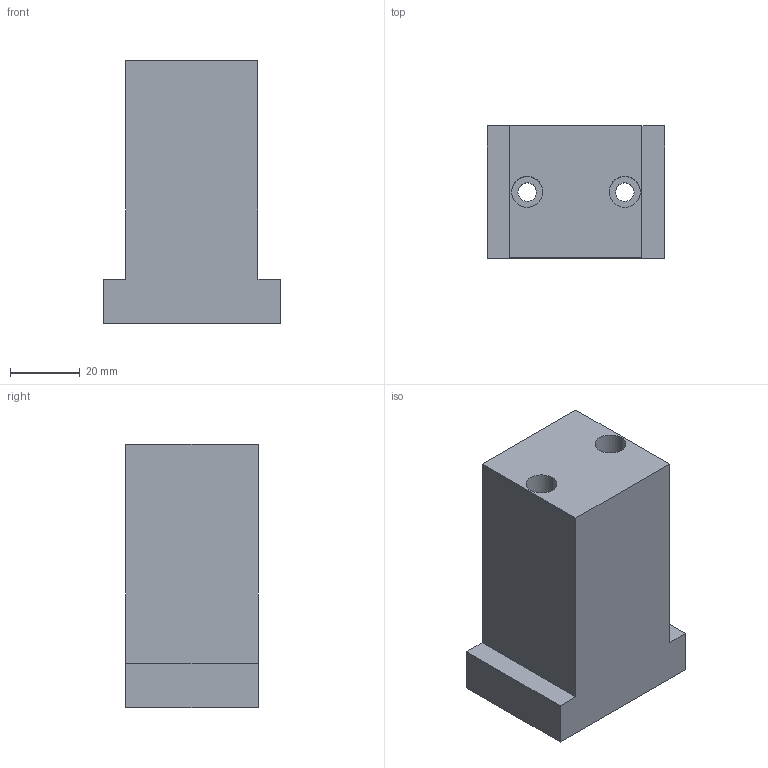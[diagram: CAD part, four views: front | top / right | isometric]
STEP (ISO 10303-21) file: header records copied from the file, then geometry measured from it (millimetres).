
FILE_DESCRIPTION (( 'STEP AP203' ), '1' );
FILE_NAME ('269-18-108.STEP', '2020-03-02T21:44:56', ( '' ), ( '' ), 'SwSTEP 2.0', 'SolidWorks 2017', '' );
FILE_SCHEMA (( 'CONFIG_CONTROL_DESIGN' ));
Length unit declared in the file: inch
Products named in the file (1): 269-18-108
Bounding box: 50.8 x 37.97 x 75.44 mm (x, y, z)
Volume: 103370.5 mm3; surface area: 20203.1 mm2
Topology: 1 solids, 1 shells, 30 faces, 75 edges, 50 vertices
Faces by surface type: plane 16, cylinder 14
Entity records: 1118 total; most frequent: CARTESIAN_POINT 288, DIRECTION 157, ORIENTED_EDGE 150, EDGE_CURVE 75, AXIS2_PLACEMENT_3D 55, VERTEX_POINT 50, LINE 47, VECTOR 47
